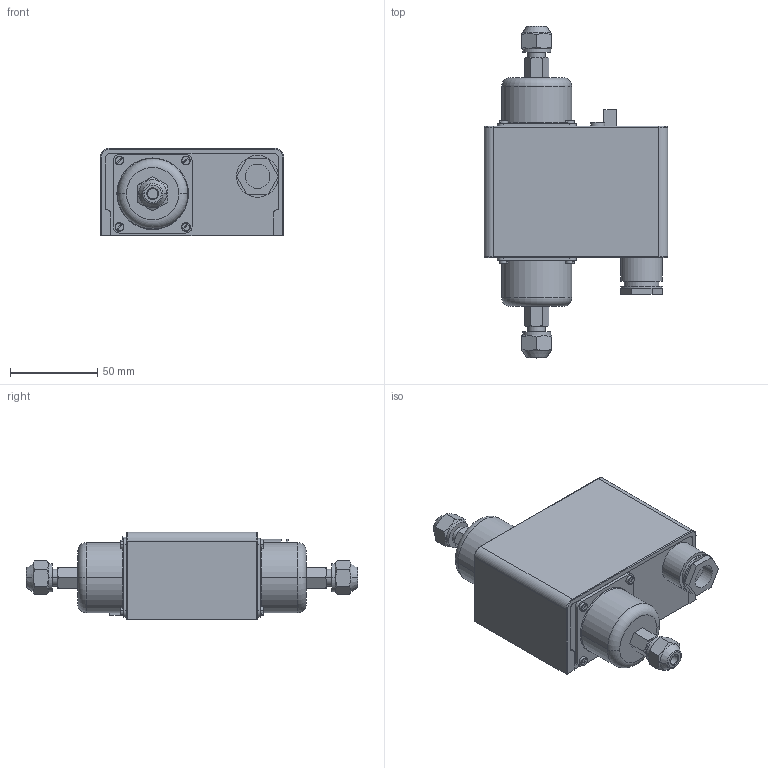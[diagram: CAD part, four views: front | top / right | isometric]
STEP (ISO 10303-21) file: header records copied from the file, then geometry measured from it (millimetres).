
FILE_DESCRIPTION(('STEP AP203'), '1');
FILE_NAME('MP54.stp', '2010-11-10T08:13:25', ('UNSPECIFIED'), ('UNSPECIFIED'), 'ASCON STEP Converter 1.0', 'Kompas 3D', '');
FILE_SCHEMA(('CONFIG_CONTROL_DESIGN'));
Length unit declared in the file: millimetre
Products named in the file (1): 1
Bounding box: 105 x 190 x 50 mm (x, y, z)
Volume: 478310.2 mm3; surface area: 47662.4 mm2
Topology: 1 solids, 1 shells, 283 faces, 699 edges, 448 vertices
Faces by surface type: plane 142, cylinder 87, torus 34, cone 20
Entity records: 10357 total; most frequent: CARTESIAN_POINT 3475, DIRECTION 1465, ORIENTED_EDGE 1398, EDGE_CURVE 699, AXIS2_PLACEMENT_3D 562, VERTEX_POINT 448, LINE 341, VECTOR 341
